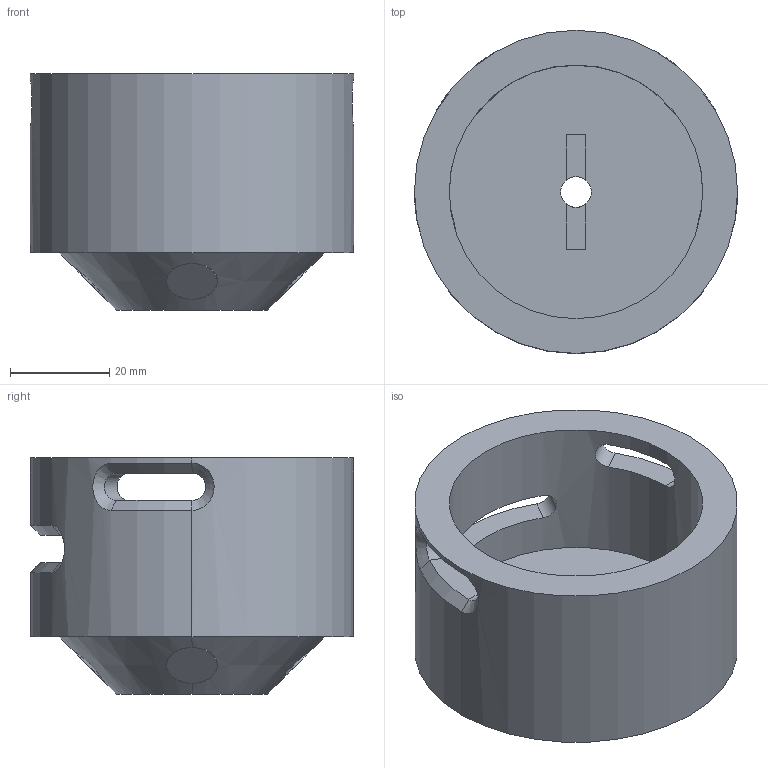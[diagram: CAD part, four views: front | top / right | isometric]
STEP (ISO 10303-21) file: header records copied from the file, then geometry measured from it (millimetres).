
FILE_DESCRIPTION( ( '' ), '1' );
FILE_NAME( '//partserver001.servicenet/client_exchange/iodir/jobs/output/wkb16454083_no1/STEP/e17148_2_03.stp', '2009-05-27T06:06:19', ( '' ), ( '' ), ' ', ' ', ' ' );
FILE_SCHEMA( ( 'CONFIG_CONTROL_DESIGN' ) );
Length unit declared in the file: millimetre
Products named in the file (1): 1
Bounding box: 65 x 65 x 47.5 mm (x, y, z)
Volume: 72248 mm3; surface area: 20173.4 mm2
Topology: 1 solids, 1 shells, 63 faces, 148 edges, 88 vertices
Faces by surface type: cylinder 26, plane 23, cone 14
Entity records: 2602 total; most frequent: CARTESIAN_POINT 1104, DIRECTION 312, ORIENTED_EDGE 296, EDGE_CURVE 148, AXIS2_PLACEMENT_3D 124, VERTEX_POINT 88, EDGE_LOOP 72, LINE 64
